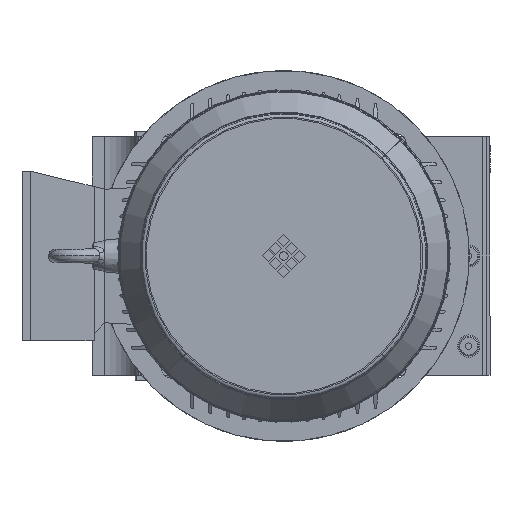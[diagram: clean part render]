
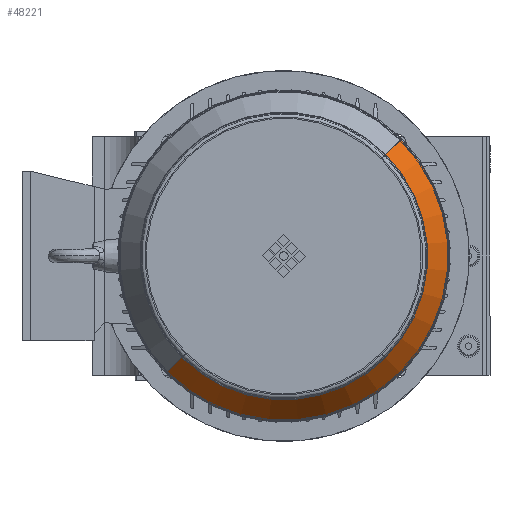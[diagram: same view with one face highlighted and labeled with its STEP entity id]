
A CAD part, left-side view. The second image highlights one B-rep face of the part: STEP entity #48221.
In plain terms, the highlighted conical face has half-angle 33.328 degrees and reference radius 156.042 mm.
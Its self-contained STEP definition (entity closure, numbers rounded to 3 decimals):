
#15122 = ORIENTED_EDGE ( 'NONE', *, *, #79101, .T. ) ;
#15231 = ORIENTED_EDGE ( 'NONE', *, *, #78980, .T. ) ;
#15320 = ORIENTED_EDGE ( 'NONE', *, *, #79825, .F. ) ;
#15356 = ORIENTED_EDGE ( 'NONE', *, *, #78993, .F. ) ;
#35402 = CARTESIAN_POINT ( 'NONE',  ( 50.212, 0., 0. ) ) ;
#35441 = DIRECTION ( 'NONE',  ( -1., 0., 0. ) ) ;
#35514 = DIRECTION ( 'NONE',  ( 0., 0., 1. ) ) ;
#36430 = DIRECTION ( 'NONE',  ( -0.836, 0., 0.549 ) ) ;
#36452 = CARTESIAN_POINT ( 'NONE',  ( 50.212, 0., 156.042 ) ) ;
#39584 = VERTEX_POINT ( 'NONE', #130369 ) ;
#39585 = VERTEX_POINT ( 'NONE', #130346 ) ;
#39604 = VERTEX_POINT ( 'NONE', #130334 ) ;
#39607 = VERTEX_POINT ( 'NONE', #130342 ) ;
#48221 = ADVANCED_FACE ( 'NONE', ( #51698 ), #51823, .T. ) ;
#51698 = FACE_OUTER_BOUND ( 'NONE', #81950, .T. ) ;
#51823 = CONICAL_SURFACE ( 'NONE', #107640, 156.042, 0.582 ) ;
#74339 = CARTESIAN_POINT ( 'NONE',  ( 50.212, 0., 0. ) ) ;
#74370 = DIRECTION ( 'NONE',  ( -1., 0., 0. ) ) ;
#74383 = DIRECTION ( 'NONE',  ( 0., -1., 0. ) ) ;
#74455 = LINE ( 'NONE', #36452, #74489 ) ;
#74489 = VECTOR ( 'NONE', #36430, 1000. ) ;
#75032 = CIRCLE ( 'NONE', #107031, 156.042 ) ;
#75210 = LINE ( 'NONE', #76816, #75280 ) ;
#75265 = CIRCLE ( 'NONE', #106781, 135.658 ) ;
#75280 = VECTOR ( 'NONE', #76824, 1000. ) ;
#76764 = DIRECTION ( 'NONE',  ( 0., -1., 0. ) ) ;
#76787 = CARTESIAN_POINT ( 'NONE',  ( 81.211, 0., 0. ) ) ;
#76789 = DIRECTION ( 'NONE',  ( -1., 0., 0. ) ) ;
#76816 = CARTESIAN_POINT ( 'NONE',  ( 50.212, 0., -156.042 ) ) ;
#76824 = DIRECTION ( 'NONE',  ( -0.836, 0., -0.549 ) ) ;
#78980 = EDGE_CURVE ( 'NONE', #39585, #39584, #75265, .T. ) ;
#78993 = EDGE_CURVE ( 'NONE', #39585, #39604, #75210, .T. ) ;
#79101 = EDGE_CURVE ( 'NONE', #39584, #39607, #74455, .T. ) ;
#79825 = EDGE_CURVE ( 'NONE', #39604, #39607, #75032, .T. ) ;
#81950 = EDGE_LOOP ( 'NONE', ( #15356, #15231, #15122, #15320 ) ) ;
#106781 = AXIS2_PLACEMENT_3D ( 'NONE', #76787, #76789, #76764 ) ;
#107031 = AXIS2_PLACEMENT_3D ( 'NONE', #74339, #74370, #74383 ) ;
#107640 = AXIS2_PLACEMENT_3D ( 'NONE', #35402, #35441, #35514 ) ;
#130334 = CARTESIAN_POINT ( 'NONE',  ( 50.212, 0., -156.042 ) ) ;
#130342 = CARTESIAN_POINT ( 'NONE',  ( 50.212, 0., 156.042 ) ) ;
#130346 = CARTESIAN_POINT ( 'NONE',  ( 81.211, 0., -135.658 ) ) ;
#130369 = CARTESIAN_POINT ( 'NONE',  ( 81.211, 0., 135.658 ) ) ;
